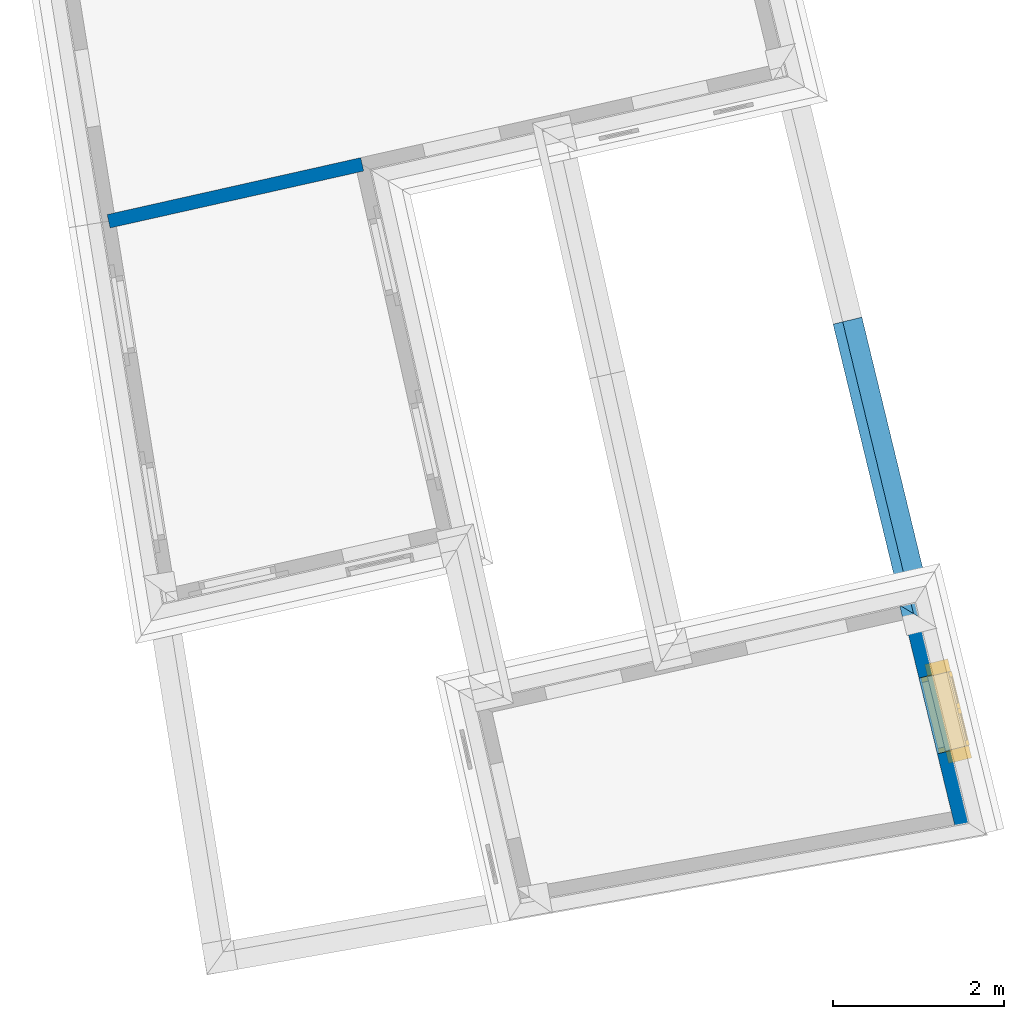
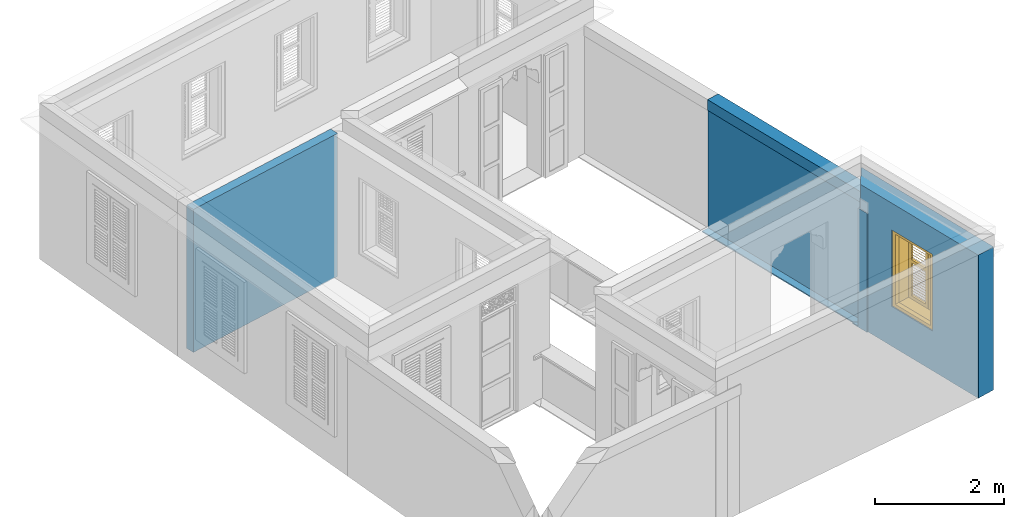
# One storey, part 8 of 15: 5 walls, 1 window, 1 opening.
"""IFC4 building model written with IfcOpenShell, lengths in metres."""

from ifc_helpers import new_model, si_unit, frame, origin, origin_with_axes, place, context, subcontext, project, spatial, polyline, outline, extrude, clip, halfspace, faceted_brep, source, transform, mapped, material, layer, layer_set, layer_usage, material_profile, profile_set, profile_usage, type_object, type_shapes, element, fill, save


model = new_model("IFC4")

# Units and contexts
model_context = context("Model", 3, world=origin_with_axes())
body_context = subcontext(model_context, "Body", "Model", "MODEL_VIEW")
ifc_project = project(units=[si_unit("PLANEANGLEUNIT", "RADIAN"), si_unit("MASSUNIT", "GRAM", prefix="KILO"), si_unit("FORCEUNIT", "NEWTON", prefix="KILO"), si_unit("LENGTHUNIT", "METRE"), si_unit("AREAUNIT", "SQUARE_METRE"), si_unit("VOLUMEUNIT", "CUBIC_METRE")], contexts=[model_context, model_context])

# Site, building, storey
site_placement = place(None, origin_with_axes())
site = spatial("IfcSite", under=ifc_project, at=site_placement, Name="Site plot-10", CompositionType="ELEMENT")
building_placement = place(None, origin_with_axes())
building = spatial("IfcBuilding", under=site, at=building_placement, Name="Building plot-10", CompositionType="ELEMENT")
storey_placement = place(None, frame((0.0, 0.0, 2.7), z_axis=(0.0, 0.0, 1.0), x_axis=(1.0, 0.0, 0.0)))
storey = spatial("IfcBuildingStorey", under=building, at=storey_placement, Name="plot-10 1", CompositionType="ELEMENT", Elevation=2.7)

# Wall, opening, window
ifc_material_1 = material(Name="Masonry")
ifc_layer_1 = layer(ifc_material_1, 0.33, ventilated=False)
ifc_layer_set_1 = layer_set([ifc_layer_1], Name="exterior_0.08_0.25")
ifc_layer_usage_1 = layer_usage(ifc_layer_set_1, "AXIS2", "POSITIVE", -0.25)
wall_type_1 = type_object("IfcWallType", Name="exterior_0.08_0.25", PredefinedType="SOLIDWALL", material=ifc_layer_set_1)
wall_1_placement = place(storey_placement, frame((-14.5759985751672, 9.56223174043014, 0.0), z_axis=(0.0, 0.0, 1.0), x_axis=(-0.235675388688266, 0.971831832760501, 0.0)))
wall_1 = element("IfcWall", 1, at=wall_1_placement, inside=storey, type_object=wall_type_1, material=ifc_layer_usage_1, Name="exterior", context=body_context, shape_type="SweptSolid", body=[
    extrude(outline(polyline([(-0.25, 0.0800000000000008), (-0.25, -0.249999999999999), (2.71709207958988, -0.25), (2.3927199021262, 0.0800000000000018), (-0.25, 0.0800000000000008)])), origin_with_axes(), (0.0, 0.0, 1.0), 2.7),
])
opening_placement = place(wall_1_placement, frame((0.78067779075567, 0.0, 0.75)))
opening = element("IfcOpeningElement", 2, at=opening_placement, cuts=wall_1, Name="My Opening", ObjectType="Opening", context=body_context, shape_type="SweptSolid", body=[
    extrude(outline(polyline([(0.0, -0.270000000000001), (0.910000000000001, -0.27), (0.910000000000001, 1.1), (1.11022302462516e-16, 1.1), (0.0, -0.270000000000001)])), origin_with_axes(), (0.0, 0.0, 1.0), 1.445),
])
window_type = type_object("IfcWindowType", Name="shuttered_shorter", PartitioningType="DOUBLE_PANEL_HORIZONTAL", PredefinedType="NOTDEFINED")
shared_shape = source(origin(), body_context, "Body", "Brep", [
    faceted_brep([(0.393, 0.0, 0.622), (0.074, 0.0, 0.622), (0.074, 0.0, 0.632), (0.393, 0.0, 0.632), (0.074, -0.04, 0.592), (0.393, -0.04, 0.592), (0.393, -0.04, 0.582), (0.074, -0.04, 0.582), (0.517, 0.0, 0.682), (0.836, 0.0, 0.682), (0.836, 0.0, 0.672), (0.517, 0.0, 0.672), (0.517, -0.04, 0.642), (0.836, -0.04, 0.642), (0.836, -0.04, 0.632), (0.517, -0.04, 0.632), (0.517, 0.0, 0.632), (0.836, 0.0, 0.632), (0.836, 0.0, 0.622), (0.517, 0.0, 0.622), (0.517, -0.04, 0.592), (0.836, -0.04, 0.592), (0.836, -0.04, 0.582), (0.517, -0.04, 0.582), (0.517, 0.0, 0.232), (0.836, 0.0, 0.232), (0.836, 0.0, 0.222), (0.517, 0.0, 0.222), (0.517, -0.04, 0.192), (0.836, -0.04, 0.192), (0.836, -0.04, 0.182), (0.517, -0.04, 0.182), (0.517, 0.0, 0.532), (0.836, 0.0, 0.532), (0.836, 0.0, 0.522), (0.517, 0.0, 0.522), (0.517, -0.04, 0.492), (0.836, -0.04, 0.492), (0.836, -0.04, 0.482), (0.517, -0.04, 0.482), (0.517, 0.0, 0.482), (0.836, 0.0, 0.482), (0.836, 0.0, 0.472), (0.517, 0.0, 0.472), (0.517, -0.04, 0.442), (0.836, -0.04, 0.442), (0.836, -0.04, 0.432), (0.517, -0.04, 0.432), (0.517, 0.0, 0.582), (0.836, 0.0, 0.582), (0.836, 0.0, 0.572), (0.517, 0.0, 0.572), (0.517, -0.04, 0.542), (0.836, -0.04, 0.542), (0.836, -0.04, 0.532), (0.517, -0.04, 0.532), (0.517, 0.0, 0.182), (0.836, 0.0, 0.182), (0.836, 0.0, 0.172), (0.517, 0.0, 0.172), (0.517, -0.04, 0.142), (0.836, -0.04, 0.142), (0.836, -0.04, 0.132), (0.517, -0.04, 0.132), (0.517, 0.0, 0.382), (0.836, 0.0, 0.382), (0.836, 0.0, 0.372), (0.517, 0.0, 0.372), (0.517, -0.04, 0.342), (0.836, -0.04, 0.342), (0.836, -0.04, 0.332), (0.517, -0.04, 0.332), (0.517, 0.0, 0.432), (0.836, 0.0, 0.432), (0.836, 0.0, 0.422), (0.517, 0.0, 0.422), (0.517, -0.04, 0.392), (0.836, -0.04, 0.392), (0.836, -0.04, 0.382), (0.517, -0.04, 0.382), (0.517, 0.0, 0.132), (0.836, 0.0, 0.132), (0.836, 0.0, 0.122), (0.517, 0.0, 0.122), (0.517, -0.04, 0.092), (0.836, -0.04, 0.092), (0.836, -0.04, 0.082), (0.517, -0.04, 0.082), (0.517, 0.0, 0.282), (0.836, 0.0, 0.282), (0.836, 0.0, 0.272), (0.517, 0.0, 0.272), (0.517, -0.04, 0.242), (0.836, -0.04, 0.242), (0.836, -0.04, 0.232), (0.517, -0.04, 0.232), (0.517, 0.0, 0.332), (0.836, 0.0, 0.332), (0.836, 0.0, 0.322), (0.517, 0.0, 0.322), (0.517, -0.04, 0.292), (0.836, -0.04, 0.292), (0.836, -0.04, 0.282), (0.517, -0.04, 0.282), (0.517, 0.0, 1.362667), (0.836, 0.0, 1.362667), (0.836, 0.0, 1.352667), (0.517, 0.0, 1.352667), (0.517, -0.04, 1.322667), (0.836, -0.04, 1.322667), (0.836, -0.04, 1.312667), (0.517, -0.04, 1.312667), (0.517, 0.0, 1.312667), (0.836, 0.0, 1.312667), (0.836, 0.0, 1.302667), (0.517, 0.0, 1.302667), (0.517, -0.04, 1.272667), (0.836, -0.04, 1.272667), (0.836, -0.04, 1.262667), (0.517, -0.04, 1.262667), (0.517, 0.0, 0.912667), (0.836, 0.0, 0.912667), (0.836, 0.0, 0.902667), (0.517, 0.0, 0.902667), (0.517, -0.04, 0.872667), (0.836, -0.04, 0.872667), (0.836, -0.04, 0.862667), (0.517, -0.04, 0.862667), (0.517, 0.0, 1.212667), (0.836, 0.0, 1.212667), (0.836, 0.0, 1.202667), (0.517, 0.0, 1.202667), (0.517, -0.04, 1.172667), (0.836, -0.04, 1.172667), (0.836, -0.04, 1.162667), (0.517, -0.04, 1.162667), (0.517, 0.0, 1.162667), (0.836, 0.0, 1.162667), (0.836, 0.0, 1.152667), (0.517, 0.0, 1.152667), (0.517, -0.04, 1.122667), (0.836, -0.04, 1.122667), (0.836, -0.04, 1.112667), (0.517, -0.04, 1.112667), (0.517, 0.0, 1.262667), (0.836, 0.0, 1.262667), (0.836, 0.0, 1.252667), (0.517, 0.0, 1.252667), (0.517, -0.04, 1.222667), (0.836, -0.04, 1.222667), (0.836, -0.04, 1.212667), (0.517, -0.04, 1.212667), (0.517, 0.0, 0.862667), (0.836, 0.0, 0.862667), (0.836, 0.0, 0.852667), (0.517, 0.0, 0.852667), (0.517, -0.04, 0.822667), (0.836, -0.04, 0.822667), (0.836, -0.04, 0.812667), (0.517, -0.04, 0.812667), (0.517, 0.0, 1.062667), (0.836, 0.0, 1.062667), (0.836, 0.0, 1.052667), (0.517, 0.0, 1.052667), (0.517, -0.04, 1.022667), (0.836, -0.04, 1.022667), (0.836, -0.04, 1.012667), (0.517, -0.04, 1.012667), (0.517, 0.0, 1.112667), (0.836, 0.0, 1.112667), (0.836, 0.0, 1.102667), (0.517, 0.0, 1.102667), (0.517, -0.04, 1.072667), (0.836, -0.04, 1.072667), (0.836, -0.04, 1.062667), (0.517, -0.04, 1.062667), (0.517, 0.0, 0.812667), (0.836, 0.0, 0.812667), (0.836, 0.0, 0.802667), (0.517, 0.0, 0.802667), (0.517, -0.04, 0.772667), (0.836, -0.04, 0.772667), (0.836, -0.04, 0.762667), (0.517, -0.04, 0.762667), (0.517, 0.0, 0.962667), (0.836, 0.0, 0.962667), (0.836, 0.0, 0.952667), (0.517, 0.0, 0.952667), (0.517, -0.04, 0.922667), (0.836, -0.04, 0.922667), (0.836, -0.04, 0.912667), (0.517, -0.04, 0.912667), (0.517, 0.0, 1.012667), (0.836, 0.0, 1.012667), (0.836, 0.0, 1.002667), (0.517, 0.0, 1.002667), (0.517, -0.04, 0.972667), (0.836, -0.04, 0.972667), (0.836, -0.04, 0.962667), (0.517, -0.04, 0.962667), (0.074, 0.0, 0.682), (0.393, 0.0, 0.682), (0.393, 0.0, 0.672), (0.074, 0.0, 0.672), (0.074, -0.04, 0.642), (0.393, -0.04, 0.642), (0.393, -0.04, 0.632), (0.074, -0.04, 0.632), (0.074, 0.0, 0.232), (0.393, 0.0, 0.232), (0.393, 0.0, 0.222), (0.074, 0.0, 0.222), (0.074, -0.04, 0.192), (0.393, -0.04, 0.192), (0.393, -0.04, 0.182), (0.074, -0.04, 0.182), (0.074, 0.0, 0.532), (0.393, 0.0, 0.532), (0.393, 0.0, 0.522), (0.074, 0.0, 0.522), (0.074, -0.04, 0.492), (0.393, -0.04, 0.492), (0.393, -0.04, 0.482), (0.074, -0.04, 0.482), (0.074, 0.0, 0.482), (0.393, 0.0, 0.482), (0.393, 0.0, 0.472), (0.074, 0.0, 0.472), (0.074, -0.04, 0.442), (0.393, -0.04, 0.442), (0.393, -0.04, 0.432), (0.074, -0.04, 0.432), (0.074, 0.0, 0.582), (0.393, 0.0, 0.582), (0.393, 0.0, 0.572), (0.074, 0.0, 0.572), (0.074, -0.04, 0.542), (0.393, -0.04, 0.542), (0.393, -0.04, 0.532), (0.074, -0.04, 0.532), (0.074, 0.0, 0.182), (0.393, 0.0, 0.182), (0.393, 0.0, 0.172), (0.074, 0.0, 0.172), (0.074, -0.04, 0.142), (0.393, -0.04, 0.142), (0.393, -0.04, 0.132), (0.074, -0.04, 0.132), (0.074, 0.0, 0.382), (0.393, 0.0, 0.382), (0.393, 0.0, 0.372), (0.074, 0.0, 0.372), (0.074, -0.04, 0.342), (0.393, -0.04, 0.342), (0.393, -0.04, 0.332), (0.074, -0.04, 0.332), (0.074, 0.0, 0.432), (0.393, 0.0, 0.432), (0.393, 0.0, 0.422), (0.074, 0.0, 0.422), (0.074, -0.04, 0.392), (0.393, -0.04, 0.392), (0.393, -0.04, 0.382), (0.074, -0.04, 0.382), (0.074, 0.0, 0.132), (0.393, 0.0, 0.132), (0.393, 0.0, 0.122), (0.074, 0.0, 0.122), (0.074, -0.04, 0.092), (0.393, -0.04, 0.092), (0.393, -0.04, 0.082), (0.074, -0.04, 0.082), (0.074, 0.0, 0.282), (0.393, 0.0, 0.282), (0.393, 0.0, 0.272), (0.074, 0.0, 0.272), (0.074, -0.04, 0.242), (0.393, -0.04, 0.242), (0.393, -0.04, 0.232), (0.074, -0.04, 0.232), (0.074, 0.0, 0.332), (0.393, 0.0, 0.332), (0.393, 0.0, 0.322), (0.074, 0.0, 0.322), (0.074, -0.04, 0.292), (0.393, -0.04, 0.292), (0.393, -0.04, 0.282), (0.074, -0.04, 0.282), (0.074, 0.0, 1.362667), (0.393, 0.0, 1.362667), (0.393, 0.0, 1.352667), (0.074, 0.0, 1.352667), (0.074, -0.04, 1.322667), (0.393, -0.04, 1.322667), (0.393, -0.04, 1.312667), (0.074, -0.04, 1.312667), (0.074, 0.0, 1.312667), (0.393, 0.0, 1.312667), (0.393, 0.0, 1.302667), (0.074, 0.0, 1.302667), (0.074, -0.04, 1.272667), (0.393, -0.04, 1.272667), (0.393, -0.04, 1.262667), (0.074, -0.04, 1.262667), (0.074, 0.0, 0.912667), (0.393, 0.0, 0.912667), (0.393, 0.0, 0.902667), (0.074, 0.0, 0.902667), (0.074, -0.04, 0.872667), (0.393, -0.04, 0.872667), (0.393, -0.04, 0.862667), (0.074, -0.04, 0.862667), (0.074, 0.0, 1.212667), (0.393, 0.0, 1.212667), (0.393, 0.0, 1.202667), (0.074, 0.0, 1.202667), (0.074, -0.04, 1.172667), (0.393, -0.04, 1.172667), (0.393, -0.04, 1.162667), (0.074, -0.04, 1.162667), (0.074, 0.0, 1.162667), (0.393, 0.0, 1.162667), (0.393, 0.0, 1.152667), (0.074, 0.0, 1.152667), (0.074, -0.04, 1.122667), (0.393, -0.04, 1.122667), (0.393, -0.04, 1.112667), (0.074, -0.04, 1.112667), (0.074, 0.0, 1.262667), (0.393, 0.0, 1.262667), (0.393, 0.0, 1.252667), (0.074, 0.0, 1.252667), (0.074, -0.04, 1.222667), (0.393, -0.04, 1.222667), (0.393, -0.04, 1.212667), (0.074, -0.04, 1.212667), (0.074, 0.0, 0.862667), (0.393, 0.0, 0.862667), (0.393, 0.0, 0.852667), (0.074, 0.0, 0.852667), (0.074, -0.04, 0.822667), (0.393, -0.04, 0.822667), (0.393, -0.04, 0.812667), (0.074, -0.04, 0.812667), (0.074, 0.0, 1.062667), (0.393, 0.0, 1.062667), (0.393, 0.0, 1.052667), (0.074, 0.0, 1.052667), (0.074, -0.04, 1.022667), (0.393, -0.04, 1.022667), (0.393, -0.04, 1.012667), (0.074, -0.04, 1.012667), (0.074, 0.0, 1.112667), (0.393, 0.0, 1.112667), (0.393, 0.0, 1.102667), (0.074, 0.0, 1.102667), (0.074, -0.04, 1.072667), (0.393, -0.04, 1.072667), (0.393, -0.04, 1.062667), (0.074, -0.04, 1.062667), (0.074, 0.0, 0.812667), (0.393, 0.0, 0.812667), (0.393, 0.0, 0.802667), (0.074, 0.0, 0.802667), (0.074, -0.04, 0.772667), (0.393, -0.04, 0.772667), (0.393, -0.04, 0.762667), (0.074, -0.04, 0.762667), (0.074, 0.0, 0.962667), (0.393, 0.0, 0.962667), (0.393, 0.0, 0.952667), (0.074, 0.0, 0.952667), (0.074, -0.04, 0.922667), (0.393, -0.04, 0.922667), (0.393, -0.04, 0.912667), (0.074, -0.04, 0.912667), (0.074, 0.0, 1.012667), (0.393, 0.0, 1.012667), (0.393, 0.0, 1.002667), (0.074, 0.0, 1.002667), (0.074, -0.04, 0.972667), (0.393, -0.04, 0.972667), (0.393, -0.04, 0.962667), (0.074, -0.04, 0.962667), (0.517, -0.04, 0.072), (0.457, -0.04, 0.012), (0.896, -0.04, 0.012), (0.836, -0.04, 0.072), (0.457, -0.04, 0.692667), (0.517, -0.04, 0.692667), (0.457, 0.0, 0.012), (0.896, 0.0, 0.012), (0.836, -0.04, 0.692667), (0.896, -0.04, 0.692667), (0.836, 0.0, 0.072), (0.517, 0.0, 0.072), (0.457, 0.0, 0.692667), (0.517, 0.0, 0.692667), (0.517, -0.04, 0.752666), (0.457, -0.04, 0.752666), (0.896, 0.0, 0.692667), (0.836, 0.0, 0.692667), (0.836, -0.04, 0.752666), (0.896, -0.04, 0.752666), (0.457, 0.0, 0.752666), (0.457, -0.04, 1.433333), (0.517, -0.04, 1.373333), (0.896, 0.0, 0.752666), (0.836, -0.04, 1.373333), (0.896, -0.04, 1.433333), (0.457, 0.0, 1.433333), (0.517, 0.0, 0.752666), (0.836, 0.0, 0.752666), (0.517, 0.0, 1.373333), (0.896, 0.0, 1.433333), (0.836, 0.0, 1.373333), (0.074, -0.04, 0.072), (0.014, -0.04, 0.012), (0.453, -0.04, 0.012), (0.393, -0.04, 0.072), (0.014, -0.04, 0.692667), (0.074, -0.04, 0.692667), (0.014, 0.0, 0.012), (0.453, 0.0, 0.012), (0.393, -0.04, 0.692667), (0.453, -0.04, 0.692667), (0.393, 0.0, 0.072), (0.074, 0.0, 0.072), (0.014, 0.0, 0.692667), (0.074, 0.0, 0.692667), (0.074, -0.04, 0.752666), (0.014, -0.04, 0.752666), (0.453, 0.0, 0.692667), (0.393, 0.0, 0.692667), (0.393, -0.04, 0.752666), (0.453, -0.04, 0.752666), (0.014, 0.0, 0.752666), (0.014, -0.04, 1.433333), (0.074, -0.04, 1.373333), (0.453, 0.0, 0.752666), (0.393, -0.04, 1.373333), (0.453, -0.04, 1.433333), (0.014, 0.0, 1.433333), (0.074, 0.0, 0.752666), (0.393, 0.0, 0.752666), (0.074, 0.0, 1.373333), (0.453, 0.0, 1.433333), (0.393, 0.0, 1.373333), (0.0, 0.33, 1.445), (0.91, 0.33, 1.445), (0.85, 0.33, 1.385), (0.06, 0.33, 1.385), (0.91, 0.25, 1.445), (0.0, 0.25, 1.445), (0.91, 0.25, 1.445), (0.85, 0.33, 0.06), (0.91, 0.33, 0.0), (0.85, 0.25, 1.385), (0.06, 0.25, 1.385), (0.0, 0.33, 0.0), (0.06, 0.33, 0.06), (0.0, 0.25, 0.0), (0.91, 0.25, 0.0), (0.85, 0.25, 0.06), (0.06, 0.25, 0.06), (1.05, 0.25, 1.585), (-0.14, 0.25, 1.585), (-0.14, -0.03, 1.585), (1.05, -0.03, 1.585), (0.9, -0.03, 1.435), (0.01, -0.03, 1.435), (0.01, 0.25, 1.435), (0.9, 0.25, 1.435), (0.9, 0.25, 0.01), (0.9, -0.03, 0.01), (1.05, -0.03, -0.14), (1.05, 0.25, -0.14), (0.01, -0.03, 0.01), (0.01, 0.25, 0.01), (-0.14, -0.03, -0.14), (-0.14, 0.25, -0.14)], [[[0, 1, 2, 3]], [[4, 5, 3, 2]], [[5, 6, 0, 3]], [[1, 0, 6, 7]], [[2, 1, 7, 4]], [[5, 4, 7, 6]], [[8, 9, 10, 11]], [[12, 13, 9, 8]], [[13, 14, 10, 9]], [[14, 15, 11, 10]], [[15, 12, 8, 11]], [[13, 12, 15, 14]], [[16, 17, 18, 19]], [[20, 21, 17, 16]], [[21, 22, 18, 17]], [[22, 23, 19, 18]], [[23, 20, 16, 19]], [[21, 20, 23, 22]], [[24, 25, 26, 27]], [[28, 29, 25, 24]], [[29, 30, 26, 25]], [[30, 31, 27, 26]], [[31, 28, 24, 27]], [[29, 28, 31, 30]], [[32, 33, 34, 35]], [[36, 37, 33, 32]], [[37, 38, 34, 33]], [[38, 39, 35, 34]], [[39, 36, 32, 35]], [[37, 36, 39, 38]], [[40, 41, 42, 43]], [[44, 45, 41, 40]], [[45, 46, 42, 41]], [[46, 47, 43, 42]], [[47, 44, 40, 43]], [[45, 44, 47, 46]], [[48, 49, 50, 51]], [[52, 53, 49, 48]], [[53, 54, 50, 49]], [[54, 55, 51, 50]], [[55, 52, 48, 51]], [[53, 52, 55, 54]], [[56, 57, 58, 59]], [[60, 61, 57, 56]], [[61, 62, 58, 57]], [[62, 63, 59, 58]], [[63, 60, 56, 59]], [[61, 60, 63, 62]], [[64, 65, 66, 67]], [[68, 69, 65, 64]], [[69, 70, 66, 65]], [[70, 71, 67, 66]], [[71, 68, 64, 67]], [[69, 68, 71, 70]], [[72, 73, 74, 75]], [[76, 77, 73, 72]], [[77, 78, 74, 73]], [[78, 79, 75, 74]], [[79, 76, 72, 75]], [[77, 76, 79, 78]], [[80, 81, 82, 83]], [[84, 85, 81, 80]], [[85, 86, 82, 81]], [[86, 87, 83, 82]], [[87, 84, 80, 83]], [[85, 84, 87, 86]], [[88, 89, 90, 91]], [[92, 93, 89, 88]], [[93, 94, 90, 89]], [[94, 95, 91, 90]], [[95, 92, 88, 91]], [[93, 92, 95, 94]], [[96, 97, 98, 99]], [[100, 101, 97, 96]], [[101, 102, 98, 97]], [[102, 103, 99, 98]], [[103, 100, 96, 99]], [[101, 100, 103, 102]], [[104, 105, 106, 107]], [[108, 109, 105, 104]], [[109, 110, 106, 105]], [[110, 111, 107, 106]], [[111, 108, 104, 107]], [[109, 108, 111, 110]], [[112, 113, 114, 115]], [[116, 117, 113, 112]], [[117, 118, 114, 113]], [[118, 119, 115, 114]], [[119, 116, 112, 115]], [[117, 116, 119, 118]], [[120, 121, 122, 123]], [[124, 125, 121, 120]], [[125, 126, 122, 121]], [[126, 127, 123, 122]], [[127, 124, 120, 123]], [[125, 124, 127, 126]], [[128, 129, 130, 131]], [[132, 133, 129, 128]], [[133, 134, 130, 129]], [[134, 135, 131, 130]], [[135, 132, 128, 131]], [[133, 132, 135, 134]], [[136, 137, 138, 139]], [[140, 141, 137, 136]], [[141, 142, 138, 137]], [[142, 143, 139, 138]], [[139, 143, 140, 136]], [[141, 140, 143, 142]], [[144, 145, 146, 147]], [[148, 149, 145, 144]], [[149, 150, 146, 145]], [[150, 151, 147, 146]], [[151, 148, 144, 147]], [[149, 148, 151, 150]], [[152, 153, 154, 155]], [[156, 157, 153, 152]], [[157, 158, 154, 153]], [[158, 159, 155, 154]], [[159, 156, 152, 155]], [[157, 156, 159, 158]], [[160, 161, 162, 163]], [[164, 165, 161, 160]], [[165, 166, 162, 161]], [[166, 167, 163, 162]], [[167, 164, 160, 163]], [[165, 164, 167, 166]], [[168, 169, 170, 171]], [[172, 173, 169, 168]], [[173, 174, 170, 169]], [[174, 175, 171, 170]], [[175, 172, 168, 171]], [[173, 172, 175, 174]], [[176, 177, 178, 179]], [[180, 181, 177, 176]], [[181, 182, 178, 177]], [[182, 183, 179, 178]], [[183, 180, 176, 179]], [[181, 180, 183, 182]], [[184, 185, 186, 187]], [[188, 189, 185, 184]], [[189, 190, 186, 185]], [[190, 191, 187, 186]], [[191, 188, 184, 187]], [[189, 188, 191, 190]], [[192, 193, 194, 195]], [[196, 197, 193, 192]], [[197, 198, 194, 193]], [[198, 199, 195, 194]], [[199, 196, 192, 195]], [[197, 196, 199, 198]], [[200, 201, 202, 203]], [[204, 205, 201, 200]], [[205, 206, 202, 201]], [[206, 207, 203, 202]], [[207, 204, 200, 203]], [[205, 204, 207, 206]], [[208, 209, 210, 211]], [[212, 213, 209, 208]], [[213, 214, 210, 209]], [[214, 215, 211, 210]], [[215, 212, 208, 211]], [[213, 212, 215, 214]], [[216, 217, 218, 219]], [[220, 221, 217, 216]], [[221, 222, 218, 217]], [[222, 223, 219, 218]], [[223, 220, 216, 219]], [[221, 220, 223, 222]], [[224, 225, 226, 227]], [[228, 229, 225, 224]], [[229, 230, 226, 225]], [[230, 231, 227, 226]], [[231, 228, 224, 227]], [[229, 228, 231, 230]], [[232, 233, 234, 235]], [[236, 237, 233, 232]], [[237, 238, 234, 233]], [[238, 239, 235, 234]], [[239, 236, 232, 235]], [[237, 236, 239, 238]], [[240, 241, 242, 243]], [[244, 245, 241, 240]], [[245, 246, 242, 241]], [[246, 247, 243, 242]], [[247, 244, 240, 243]], [[245, 244, 247, 246]], [[248, 249, 250, 251]], [[252, 253, 249, 248]], [[253, 254, 250, 249]], [[254, 255, 251, 250]], [[255, 252, 248, 251]], [[253, 252, 255, 254]], [[256, 257, 258, 259]], [[260, 261, 257, 256]], [[261, 262, 258, 257]], [[262, 263, 259, 258]], [[263, 260, 256, 259]], [[261, 260, 263, 262]], [[264, 265, 266, 267]], [[268, 269, 265, 264]], [[269, 270, 266, 265]], [[270, 271, 267, 266]], [[271, 268, 264, 267]], [[269, 268, 271, 270]], [[272, 273, 274, 275]], [[276, 277, 273, 272]], [[277, 278, 274, 273]], [[278, 279, 275, 274]], [[279, 276, 272, 275]], [[277, 276, 279, 278]], [[280, 281, 282, 283]], [[284, 285, 281, 280]], [[285, 286, 282, 281]], [[286, 287, 283, 282]], [[287, 284, 280, 283]], [[285, 284, 287, 286]], [[288, 289, 290, 291]], [[292, 293, 289, 288]], [[293, 294, 290, 289]], [[294, 295, 291, 290]], [[295, 292, 288, 291]], [[293, 292, 295, 294]], [[296, 297, 298, 299]], [[300, 301, 297, 296]], [[301, 302, 298, 297]], [[302, 303, 299, 298]], [[303, 300, 296, 299]], [[301, 300, 303, 302]], [[304, 305, 306, 307]], [[308, 309, 305, 304]], [[309, 310, 306, 305]], [[310, 311, 307, 306]], [[311, 308, 304, 307]], [[309, 308, 311, 310]], [[312, 313, 314, 315]], [[316, 317, 313, 312]], [[317, 318, 314, 313]], [[318, 319, 315, 314]], [[319, 316, 312, 315]], [[317, 316, 319, 318]], [[320, 321, 322, 323]], [[324, 325, 321, 320]], [[325, 326, 322, 321]], [[326, 327, 323, 322]], [[327, 324, 320, 323]], [[325, 324, 327, 326]], [[328, 329, 330, 331]], [[332, 333, 329, 328]], [[333, 334, 330, 329]], [[334, 335, 331, 330]], [[335, 332, 328, 331]], [[333, 332, 335, 334]], [[336, 337, 338, 339]], [[340, 341, 337, 336]], [[341, 342, 338, 337]], [[342, 343, 339, 338]], [[343, 340, 336, 339]], [[341, 340, 343, 342]], [[344, 345, 346, 347]], [[348, 349, 345, 344]], [[349, 350, 346, 345]], [[350, 351, 347, 346]], [[351, 348, 344, 347]], [[349, 348, 351, 350]], [[352, 353, 354, 355]], [[356, 357, 353, 352]], [[357, 358, 354, 353]], [[358, 359, 355, 354]], [[359, 356, 352, 355]], [[357, 356, 359, 358]], [[360, 361, 362, 363]], [[364, 365, 361, 360]], [[365, 366, 362, 361]], [[366, 367, 363, 362]], [[367, 364, 360, 363]], [[365, 364, 367, 366]], [[368, 369, 370, 371]], [[372, 373, 369, 368]], [[373, 374, 370, 369]], [[374, 375, 371, 370]], [[375, 372, 368, 371]], [[373, 372, 375, 374]], [[376, 377, 378, 379]], [[380, 381, 377, 376]], [[381, 382, 378, 377]], [[382, 383, 379, 378]], [[383, 380, 376, 379]], [[381, 380, 383, 382]], [[384, 385, 386, 387]], [[388, 385, 384, 389]], [[390, 391, 386, 385]], [[392, 387, 386, 393]], [[384, 387, 394, 395]], [[390, 385, 388, 396]], [[389, 384, 395, 397]], [[389, 398, 399, 388]], [[390, 395, 394, 391]], [[400, 393, 386, 391]], [[387, 392, 401, 394]], [[402, 392, 393, 403]], [[396, 388, 399, 404]], [[390, 396, 397, 395]], [[392, 389, 397, 401]], [[398, 389, 392, 402]], [[405, 399, 398, 406]], [[394, 401, 400, 391]], [[407, 403, 393, 400]], [[408, 402, 403, 409]], [[404, 399, 405, 410]], [[411, 397, 396, 404]], [[397, 411, 412, 401]], [[398, 402, 412, 411]], [[406, 398, 411, 413]], [[405, 406, 408, 409]], [[401, 412, 407, 400]], [[414, 409, 403, 407]], [[402, 408, 415, 412]], [[405, 409, 414, 410]], [[404, 410, 413, 411]], [[408, 406, 413, 415]], [[412, 415, 414, 407]], [[413, 410, 414, 415]], [[416, 417, 418, 419]], [[420, 417, 416, 421]], [[422, 423, 418, 417]], [[424, 419, 418, 425]], [[416, 419, 426, 427]], [[422, 417, 420, 428]], [[421, 416, 427, 429]], [[421, 430, 431, 420]], [[422, 427, 426, 423]], [[432, 425, 418, 423]], [[419, 424, 433, 426]], [[434, 424, 425, 435]], [[428, 420, 431, 436]], [[422, 428, 429, 427]], [[424, 421, 429, 433]], [[430, 421, 424, 434]], [[437, 431, 430, 438]], [[426, 433, 432, 423]], [[439, 435, 425, 432]], [[440, 434, 435, 441]], [[436, 431, 437, 442]], [[443, 429, 428, 436]], [[429, 443, 444, 433]], [[430, 434, 444, 443]], [[438, 430, 443, 445]], [[437, 438, 440, 441]], [[433, 444, 439, 432]], [[446, 441, 435, 439]], [[434, 440, 447, 444]], [[437, 441, 446, 442]], [[436, 442, 445, 443]], [[440, 438, 445, 447]], [[444, 447, 446, 439]], [[445, 442, 446, 447]], [[448, 449, 450, 451]], [[452, 449, 448]], [[448, 453, 454]], [[448, 454, 452]], [[455, 450, 449, 456]], [[451, 450, 457, 458]], [[459, 448, 451, 460]], [[448, 459, 461, 453]], [[454, 453, 458, 457]], [[462, 452, 454]], [[454, 457, 463]], [[454, 463, 462]], [[456, 449, 452, 462]], [[450, 455, 463, 457]], [[456, 459, 460, 455]], [[460, 451, 458, 464]], [[459, 456, 462, 461]], [[464, 458, 453, 461]], [[461, 462, 463, 464]], [[455, 460, 464, 463]], [[465, 466, 467, 468]], [[469, 470, 471, 472]], [[473, 474, 469, 472]], [[465, 468, 475, 476]], [[470, 477, 478, 471]], [[474, 473, 478, 477]], [[474, 477, 479, 475]], [[470, 467, 479, 477]], [[470, 469, 468, 467]], [[474, 475, 468, 469]], [[471, 478, 480, 466]], [[473, 472, 465, 476]], [[473, 476, 480, 478]], [[466, 465, 472, 471]], [[480, 476, 475, 479]], [[480, 479, 467, 466]]]),
])
type_shapes(window_type, [shared_shape])
window_placement = place(storey_placement, frame((-14.4975905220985, 10.3845516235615, 0.75), z_axis=(0.0, 0.0, 1.0), x_axis=(-0.214464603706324, 0.884366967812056, 0.0)))
window = element("IfcWindow", 3, at=window_placement, inside=storey, type_object=window_type, Name="circulation outside window", OverallHeight=1.445, OverallWidth=0.91, context=body_context, shape_type="MappedRepresentation", body=[
    mapped(shared_shape, transform((0.0, 0.0, 0.0), scale=1.0)),
])
fill(opening, window)

# Walls
ifc_material_2 = material(Name="Masonry")
ifc_layer_2 = layer(ifc_material_2, 0.16, ventilated=False)
ifc_layer_set_2 = layer_set([ifc_layer_2], Name="interior_0.08_0.08")
ifc_layer_usage_2 = layer_usage(ifc_layer_set_2, "AXIS2", "POSITIVE", -0.08)
wall_type_2 = type_object("IfcWallType", Name="interior_0.08_0.08", PredefinedType="SOLIDWALL", material=ifc_layer_set_2)
wall_2_placement = place(storey_placement, frame((-21.5459217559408, 17.1782132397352, 0.0), z_axis=(0.0, 0.0, 1.0), x_axis=(-0.975741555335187, -0.218925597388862, 0.0)))
element("IfcWall", 4, at=wall_2_placement, inside=storey, type_object=wall_type_2, material=ifc_layer_usage_2, Name="interior", context=body_context, shape_type="SweptSolid", body=[
    extrude(outline(polyline([(-1.22261841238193e-15, 0.0799999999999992), (1.23058480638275e-15, -0.0799999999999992), (3.03168964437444, -0.0799999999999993), (3.03168964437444, 0.0799999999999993), (-1.22261841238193e-15, 0.0799999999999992)])), origin_with_axes(), (0.0, 0.0, 1.0), 2.7),
])
ifc_material_profile_1 = material_profile(None, outline(polyline([(0.25, 0.0), (0.25, 2.245), (0.05, 2.245), (0.05, 0.02), (-0.08, 0.02), (-0.08, 0.0), (0.25, 0.0)])))
ifc_profile_set_1 = profile_set([ifc_material_profile_1])
ifc_profile_usage_1 = profile_usage(ifc_profile_set_1)
wall_type_3 = type_object("IfcWallType", Name="parapet street_0", PredefinedType="PARAPET", material=ifc_profile_set_1)
wall_3_placement = place(storey_placement, frame((-14.1866044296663, 12.1996491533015, 0.0), z_axis=(-0.9718318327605, -0.235675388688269, 0.0), x_axis=(0.235675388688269, -0.9718318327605, 0.0)))
element("IfcWall", 5, at=wall_3_placement, inside=storey, type_object=wall_type_3, material=ifc_profile_usage_1, Name="parapet street_0", context=body_context, shape_type="Clipping", body=[
    clip(clip(extrude(outline(polyline([(0.25, 0.0), (0.25, 2.245), (0.05, 2.245), (0.05, 0.02), (-0.08, 0.02), (-0.08, 0.0), (0.25, 0.0)])), origin_with_axes(), (0.0, 0.0, 1.0), 2.1), halfspace(frame((0.0, 0.0, 1.1), z_axis=(8.26946079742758e-16, 0.0, -1.0), x_axis=(0.0, 1.0, 0.0)), True)), halfspace(frame((0.0, 0.0, 1.0), z_axis=(-0.707106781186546, 0.0, -0.707106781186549), x_axis=(0.0, 1.0, 0.0)), False)),
])
ifc_profile_usage_2 = profile_usage(ifc_profile_set_1)
wall_4_placement = place(storey_placement, frame((-16.2111874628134, 16.3051021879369, 0.0), z_axis=(0.235675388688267, -0.971831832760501, 0.0), x_axis=(0.971831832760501, 0.235675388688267, 0.0)))
element("IfcWall", 6, at=wall_4_placement, inside=storey, type_object=wall_type_3, material=ifc_profile_usage_2, Name="parapet street_0", context=body_context, shape_type="Clipping", body=[
    clip(clip(extrude(outline(polyline([(0.25, 0.0), (0.25, 2.245), (0.05, 2.245), (0.05, 0.02), (-0.08, 0.02), (-0.08, 0.0), (0.25, 0.0)])), origin_with_axes(), (0.0, 0.0, 1.0), 5.46695434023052), halfspace(frame((0.0, 0.0, 4.46695434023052), z_axis=(0.707106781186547, 0.0, -0.707106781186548), x_axis=(0.0, 1.0, 0.0)), True)), halfspace(frame((0.0, 0.0, 1.0), z_axis=(1.60812264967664e-16, 0.0, -1.0), x_axis=(0.0, 1.0, 0.0)), False)),
])
ifc_material_profile_2 = material_profile(None, outline(polyline([(0.265, 2.245), (0.265, 2.445), (0.035, 2.445), (0.035, 2.245), (0.265, 2.245)])))
ifc_profile_set_2 = profile_set([ifc_material_profile_2])
ifc_profile_usage_3 = profile_usage(ifc_profile_set_2)
wall_type_4 = type_object("IfcWallType", Name="parapet street_1", PredefinedType="PARAPET", material=ifc_profile_set_2)
wall_5_placement = place(storey_placement, frame((-16.2111874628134, 16.3051021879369, 0.0), z_axis=(0.235675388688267, -0.971831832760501, 0.0), x_axis=(0.971831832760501, 0.235675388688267, 0.0)))
element("IfcWall", 7, at=wall_5_placement, inside=storey, type_object=wall_type_4, material=ifc_profile_usage_3, Name="parapet street_1", context=body_context, shape_type="Clipping", body=[
    clip(clip(extrude(outline(polyline([(0.265, 2.245), (0.265, 2.445), (0.035, 2.445), (0.035, 2.245), (0.265, 2.245)])), origin_with_axes(), (0.0, 0.0, 1.0), 5.46695434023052), halfspace(frame((0.0, 0.0, 4.46695434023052), z_axis=(0.707106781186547, 0.0, -0.707106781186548), x_axis=(0.0, 1.0, 0.0)), True)), halfspace(frame((0.0, 0.0, 1.0), z_axis=(1.60812264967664e-16, 0.0, -1.0), x_axis=(0.0, 1.0, 0.0)), False)),
])

save(model, "model.ifc")
